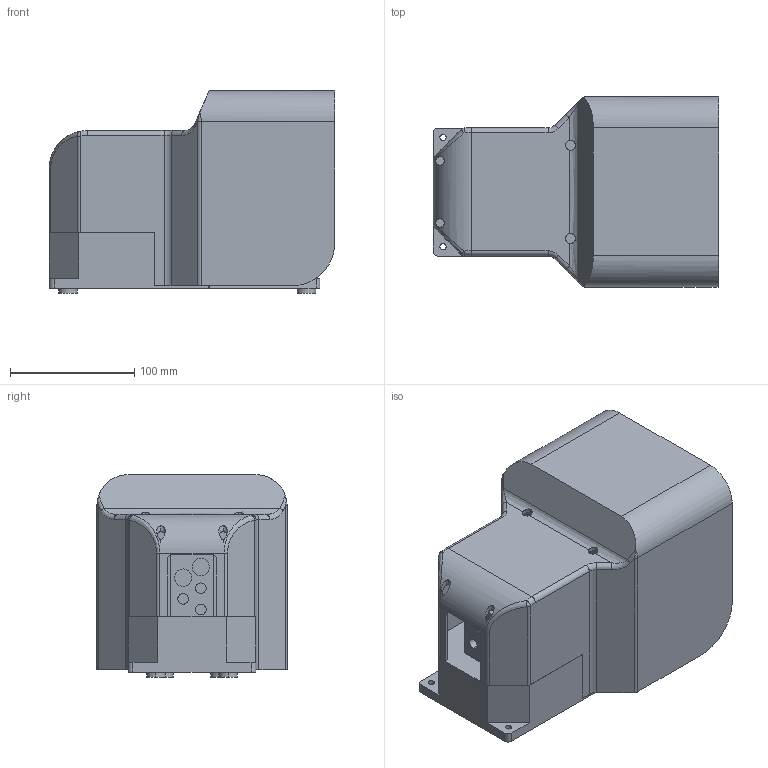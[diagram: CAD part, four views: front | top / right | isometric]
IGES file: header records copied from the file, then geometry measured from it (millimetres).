
Global section: file name: No Iges File Name specified; native system: AutoDesk Inventor R11.0; preprocessor: AutoDesk Inventor Iges Exporter R11.0; author: No Author specified; organization: No Organization specified; date: 20061219.114023; units: millimetre
Bounding box: 230 x 153 x 163 mm (x, y, z)
Volume: 1032459.3 mm3; surface area: 294623.9 mm2
Topology: 2 solids, 4 shells, 208 faces, 544 edges, 350 vertices
Faces by surface type: plane 92, cylinder 42, bspline 38, revolution 30, torus 4, sphere 2
